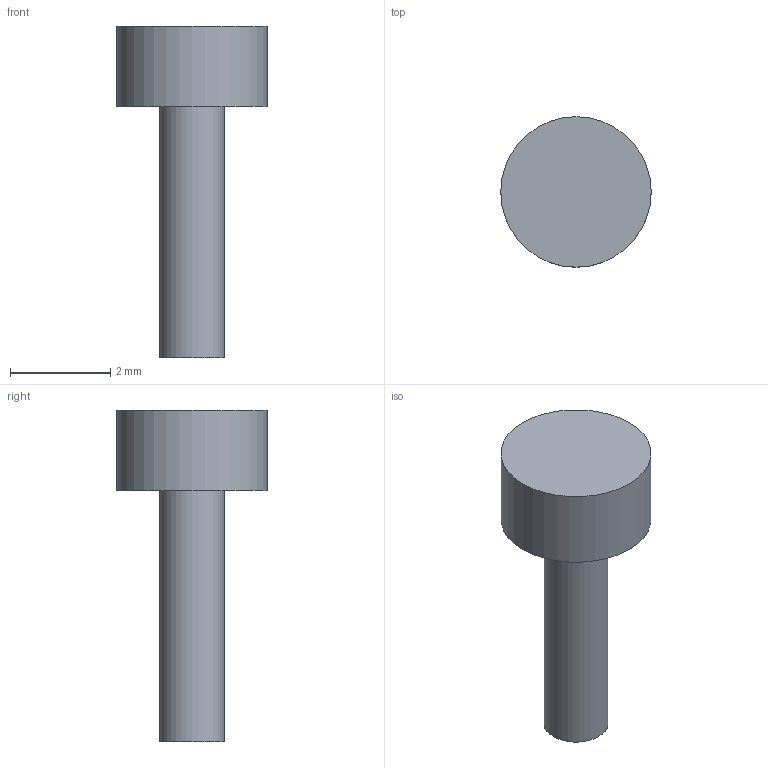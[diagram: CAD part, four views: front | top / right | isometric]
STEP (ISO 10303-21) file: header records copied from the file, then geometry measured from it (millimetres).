
FILE_DESCRIPTION(('Open CASCADE Model'),'2;1');
FILE_NAME('Open CASCADE Shape Model','2026-09-24T17:42:53',('Author'),( 'Open CASCADE'),'Open CASCADE STEP processor 7.8','Open CASCADE 7.8' ,'Unknown');
FILE_SCHEMA(('AUTOMOTIVE_DESIGN { 1 0 10303 214 1 1 1 1 }'));
Length unit declared in the file: millimetre
Products named in the file (1): Open CASCADE STEP translator 7.8 20
Bounding box: 3 x 3 x 6.6 mm (x, y, z)
Volume: 17.7 mm3; surface area: 49.3 mm2
Topology: 1 solids, 1 shells, 5 faces, 6 edges, 4 vertices
Faces by surface type: plane 3, cylinder 2
Full cylindrical faces by diameter (mm): 1.28 x1, 3 x1
Entity records: 192 total; most frequent: DIRECTION 34, CARTESIAN_POINT 28, ORIENTED_EDGE 12, PCURVE 12, DEFINITIONAL_REPRESENTATION 12, AXIS2_PLACEMENT_3D 10, LINE 10, VECTOR 10
